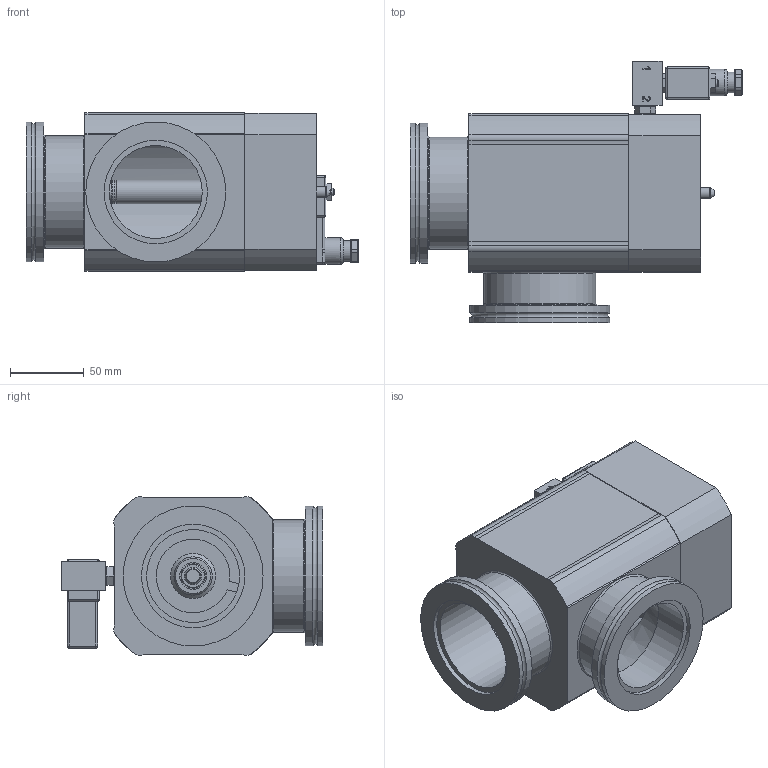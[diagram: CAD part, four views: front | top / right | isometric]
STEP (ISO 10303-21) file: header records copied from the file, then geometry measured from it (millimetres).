
FILE_DESCRIPTION(/* description */ (''),/* implementation_level */ '2;1');
FILE_NAME(/* name */ '1054064136_203.stp',/* time_stamp */ '2012-08-09T12:04:12+02:00',/* author */ (''),/* organization */ (''),/* preprocessor_version */ 'ST-DEVELOPER v11',/* originating_system */ 'SIEMENS PLM Software NX 7.5',/* authorisation */ '');
FILE_SCHEMA (('AP203_CONFIGURATION_CONTROLLED_3D_DESIGN_OF_MECHANICAL_PARTS_AND_ASSEMBLIES_MIM_LF'));
Length unit declared in the file: millimetre
Products named in the file (14): 467863; 467864; 414761_17953ID; n-7604-110; 326371.1; 415266; 243267.7; 259415.2; N-6013-443.2; 224796.1; 459840_MODEL; n-8501-300_MODELNX-ARRAGMNTArrangement 1; 461026; 472412
Assembly tree (17 placements, depth 4):
  472412
    224796.1  x4
    N-6013-443.2  x2
    259415.2
    243267.7
    415266
    461026
      326371.1
      n-7604-110
      n-8501-300_MODELNX-ARRAGMNTArrangement 1
        467864
        467863
    459840_MODEL
      414761_17953ID
Bounding box: 225.1 x 177.5 x 107.6 mm (x, y, z)
Volume: 994137.7 mm3; surface area: 244295.3 mm2
Topology: 22 solids, 22 shells, 535 faces, 1236 edges, 787 vertices
Faces by surface type: plane 277, cylinder 160, torus 37, cone 35, sphere 12, extrusion 10, bspline 4
Full cylindrical faces by diameter (mm): 3 x4, 3.1 x1, 3.3 x2, 4 x3, 4.16 x4, 4.2 x8, 4.5 x2, 4.6 x1, 4.7 x2, 5 x9, 5.5 x5, 7 x1, 7.4 x1, 7.5 x2, 8.5 x5, 8.566 x1, 9 x2, 9.728 x2, 10 x4, 10.1 x1, 12 x1, 14 x1, 15.975 x3, 16 x1, 16.5 x2, 18 x1, 18.18 x1, 20.45 x1, 26 x1, 30.5 x1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
Entity records: 15785 total; most frequent: CARTESIAN_POINT 3362, DIRECTION 2044, ORIENTED_EDGE 1816, EDGE_CURVE 908, AXIS2_PLACEMENT_3D 792, EDGE_LOOP 683, VERTEX_POINT 661, VECTOR 460
